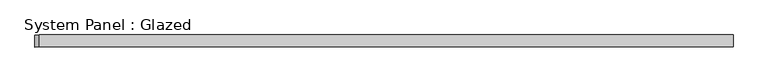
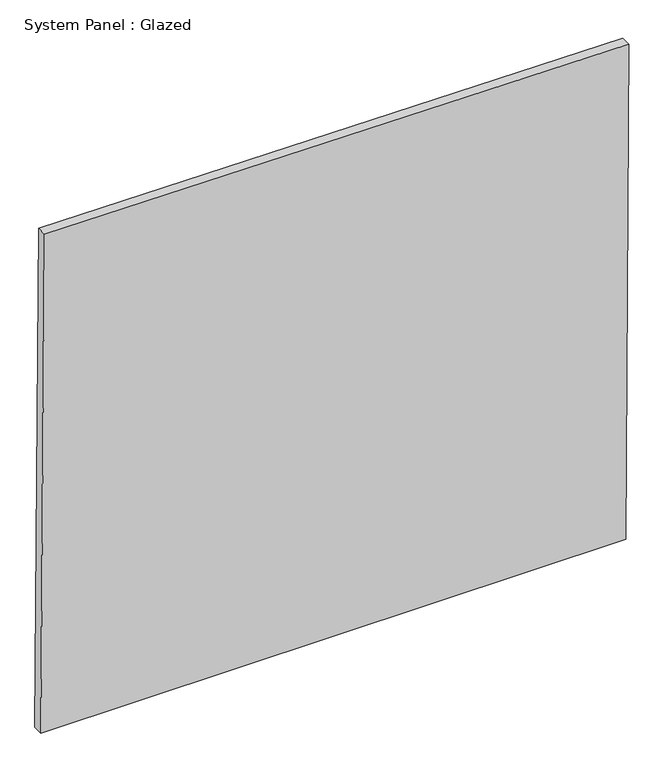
"""IFC4 building model written with IfcOpenShell, lengths in millimetres: plate geometry, System Panel : Glazed."""

from ifc_helpers import new_model, si_unit, frame, origin, place, context, project, spatial, polyline, outline, extrude, source, transform, mapped, element, save


def system_panel_glazed_948b136b(model_context):
    return source(origin(), model_context, "Body", "SweptSolid", [
        extrude(outline(polyline([(0.0, -724.4000009), (0.0, 717.2022498), (1287.4562421, 724.4000009), (1296.5222207, -715.3262586), (0.0, -724.4000009)])), frame((0.0, -49.5, 0.0), z_axis=(0.0, 1.0, 0.0), x_axis=(0.0, 0.0, 1.0)), (0.0, 0.0, 1.0), 25.0),
    ])


if __name__ == "__main__":
    model = new_model("IFC4")
    model_context = context("Model", 3, world=origin())
    ifc_project = project(units=[si_unit("LENGTHUNIT", "METRE", prefix="MILLI")], contexts=[model_context])
    site = spatial("IfcSite", under=ifc_project)
    building = spatial("IfcBuilding", under=site)
    placement = place(None, origin())
    system_panel_glazed_shape = system_panel_glazed_948b136b(model_context)
    element("IfcPlate", 1, ObjectType="System Panel : Glazed", at=placement, inside=building, context=model_context, shape_type="MappedRepresentation", body=[
        mapped(system_panel_glazed_shape, transform((0.0, 0.0, 0.0), x_axis=(1.0, 0.0, 0.0), y_axis=(0.0, 1.0, 0.0), z_axis=(0.0, 0.0, 1.0))),
    ])
    save(model, "model.ifc")
